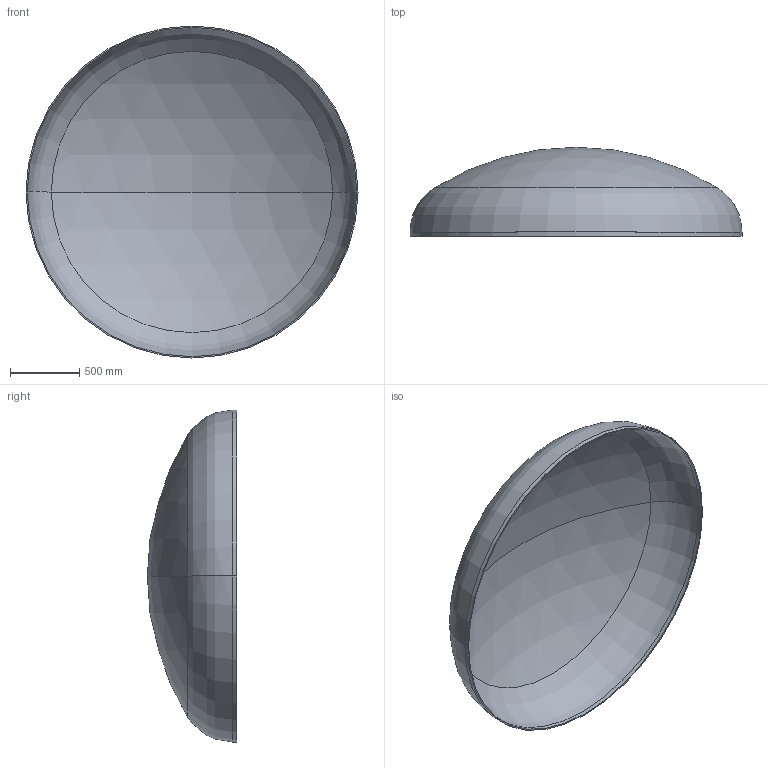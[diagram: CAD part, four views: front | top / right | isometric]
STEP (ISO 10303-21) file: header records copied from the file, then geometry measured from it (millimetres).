
FILE_DESCRIPTION (( 'STEP AP203' ), '1' );
FILE_NAME ('DIN 28013 Korbbogenform_-_Boden DIN 28013 - 2400 x 30 - I - s=9.step', '2016-07-01T15:03:46', ( '' ), ( '' ), 'SwSTEP 2.0', 'SolidWorks 2013', '' );
FILE_SCHEMA (( 'CONFIG_CONTROL_DESIGN' ));
Length unit declared in the file: millimetre
Products named in the file (1): DIN 28013 Korbbogenform_-_Boden DIN 28013 - 2400 x 30 - I - s=9
Bounding box: 2400 x 644.29 x 2400 mm (x, y, z)
Volume: 58153933.7 mm3; surface area: 12990864.8 mm2
Topology: 1 solids, 1 shells, 13 faces, 24 edges, 14 vertices
Faces by surface type: torus 4, cylinder 4, sphere 4, plane 1
Entity records: 407 total; most frequent: DIRECTION 72, CARTESIAN_POINT 52, ORIENTED_EDGE 48, AXIS2_PLACEMENT_3D 34, EDGE_CURVE 24, CIRCLE 20, EDGE_LOOP 14, VERTEX_POINT 14
